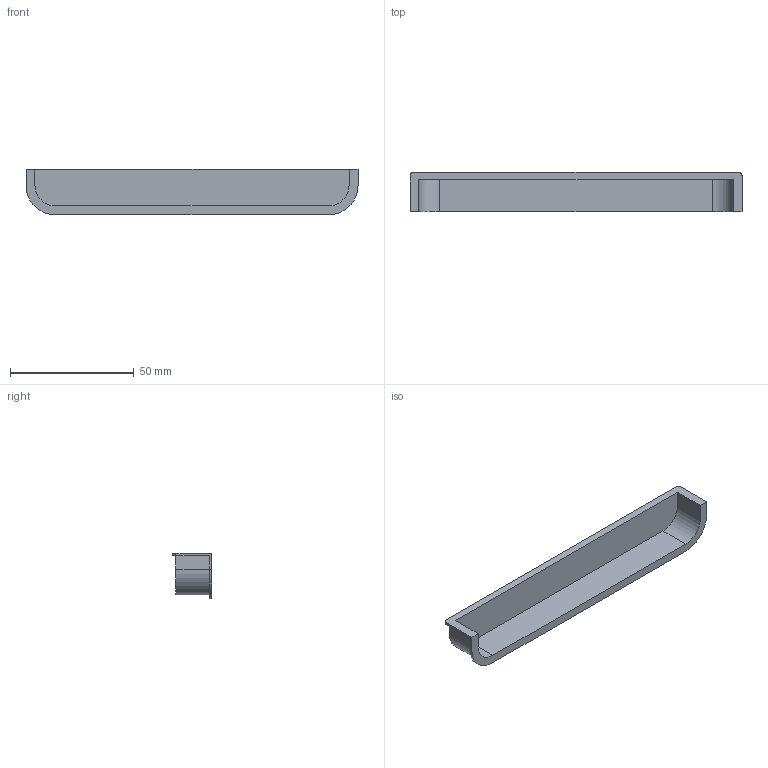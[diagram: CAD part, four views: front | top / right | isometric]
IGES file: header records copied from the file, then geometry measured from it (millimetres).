
Start section: Data from Parasolid IGES Translator 15.0.47, Copyright(c) 2006 Siemens P LM Software. All Rights Reserved.
Global section: file name: 9145262.igs; native system:  By UGS Corp.; preprocessor: XPlus GENERIC/IGES 3.0; author: Noname; organization: Noname; date: 20140122.175047; units: millimetre
Bounding box: 134 x 16 x 18.5 mm (x, y, z)
Surface area: 9778.3 mm2 (no closed solid volume)
Topology: 0 solids, 0 shells, 24 faces, 132 edges, 132 vertices
Faces by surface type: extrusion 16, revolution 8
